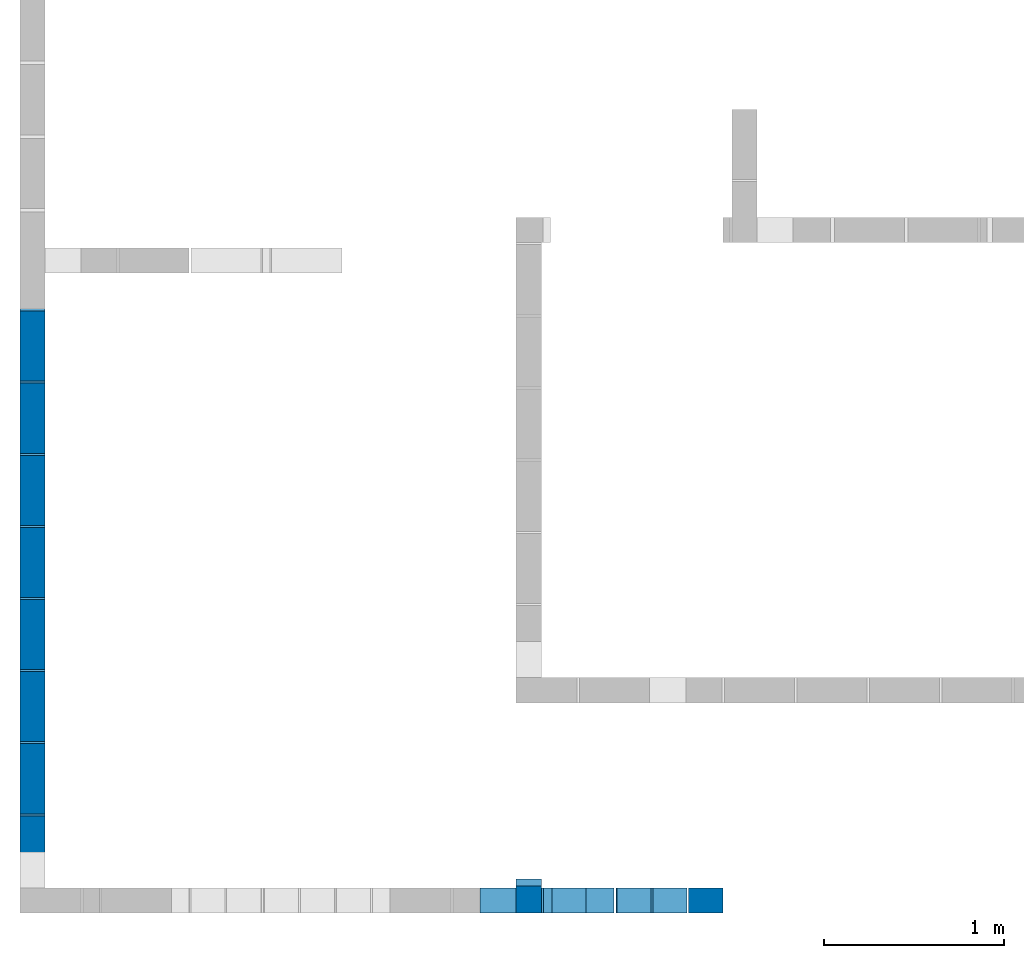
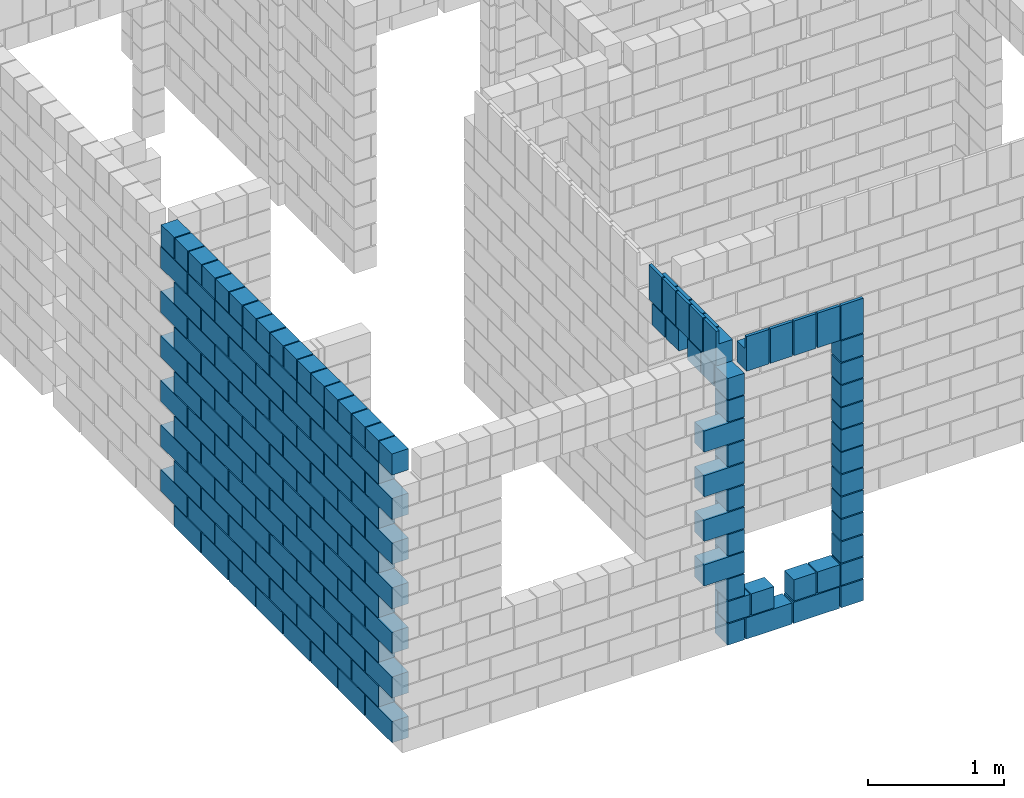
# One storey, part 2 of 12: 5 walls.
"""IFC4 building model written with IfcOpenShell, lengths in centimetres."""

import ifcopenshell
import ifcopenshell.guid

model = None  # the IFC model being written
_history = None  # IfcOwnerHistory: only IFC2X3 demands one
_inside = {}  # id of a spatial element -> (the spatial element, [elements in it])
_under = {}  # id of a project, library or spatial element -> (it, [spatial elements below it])
_declared = {}  # id of a project -> (the project, [libraries it declares])
_typed = {}  # id of a type object -> (the type object, [elements of that type])
_made_of = {}  # id of a material, layer set ... -> (it, [elements and type objects made of it])


def new_model(schema):
    """Start an empty IFC model of exactly this schema.

    Asked for "IFC4X3", IfcOpenShell would pick the latest addendum, in which some entities
    have other attributes; the version numbers below select the first issue.
    IFC2X3 requires an IfcOwnerHistory on every rooted entity: one is made here for all.
    """
    global model, _history
    if schema == "IFC4X3":
        model = ifcopenshell.file(schema_version=(4, 3, 0, 0))
    else:
        model = ifcopenshell.file(schema=schema)
    _inside.clear()
    _under.clear()
    _declared.clear()
    _typed.clear()
    _made_of.clear()
    _history = None
    if model.schema == "IFC2X3":
        org = make("IfcOrganization", Name="unknown")
        user = make(
            "IfcPersonAndOrganization",
            ThePerson=make("IfcPerson", FamilyName="unknown"),
            TheOrganization=org,
        )
        app = make(
            "IfcApplication",
            ApplicationDeveloper=org,
            Version="unknown",
            ApplicationFullName="unknown",
            ApplicationIdentifier="unknown",
        )
        _history = make(
            "IfcOwnerHistory",
            OwningUser=user,
            OwningApplication=app,
            ChangeAction="ADDED",
            CreationDate=0,
        )
    return model


def make(cls, **values):
    """One entity of the class cls with the attributes given. An attribute that is None is left unset."""
    return model.create_entity(
        cls, **{name: value for name, value in values.items() if value is not None}
    )


def rooted(cls, **values):
    """An entity with a GlobalId (a new one), such as an element, a storey or a relation."""
    return make(cls, GlobalId=ifcopenshell.guid.new(), OwnerHistory=_history, **values)


def si_unit(unit_type, name, prefix=None):
    """IfcSIUnit, for example si_unit("LENGTHUNIT", "METRE", prefix="MILLI")."""
    return make("IfcSIUnit", UnitType=unit_type, Prefix=prefix, Name=name)


def derived_unit(unit_type, elements):
    """IfcDerivedUnit: a product of units, each with its exponent."""
    return make(
        "IfcDerivedUnit",
        Elements=[
            make("IfcDerivedUnitElement", Unit=unit, Exponent=power)
            for unit, power in elements
        ],
        UnitType=unit_type,
    )


def assignment(units):
    """IfcUnitAssignment: the units of a project."""
    return None if units is None else make("IfcUnitAssignment", Units=units)


def point(xyz):
    """IfcCartesianPoint."""
    return None if xyz is None else make("IfcCartesianPoint", Coordinates=xyz)


def direction(xyz):
    """IfcDirection."""
    return None if xyz is None else make("IfcDirection", DirectionRatios=xyz)


def frame(location, z_axis=None, x_axis=None):
    """IfcAxis2Placement3D, a coordinate frame: its origin and axes. An axis left out is left unset."""
    return make(
        "IfcAxis2Placement3D",
        Location=point(location),
        Axis=direction(z_axis),
        RefDirection=direction(x_axis),
    )


def frame_2d(location, x_axis=None):
    """IfcAxis2Placement2D, a coordinate frame in the plane: its origin and x axis."""
    return make(
        "IfcAxis2Placement2D", Location=point(location), RefDirection=direction(x_axis)
    )


def origin():
    """The frame at (0, 0, 0) with its axes left unset."""
    return frame((0.0, 0.0, 0.0))


def origin_with_axes():
    """The frame at (0, 0, 0) with the z axis (0, 0, 1) and the x axis (1, 0, 0) written out."""
    return frame((0.0, 0.0, 0.0), z_axis=(0.0, 0.0, 1.0), x_axis=(1.0, 0.0, 0.0))


def origin_2d_with_axis():
    """The frame at (0, 0) in the plane with the x axis (1, 0) written out."""
    return frame_2d((0.0, 0.0), x_axis=(1.0, 0.0))


def place(relative_to, where):
    """IfcLocalPlacement: puts the frame where relative to a parent placement (None: the world)."""
    return make(
        "IfcLocalPlacement", PlacementRelTo=relative_to, RelativePlacement=where
    )


def context(
    kind, dimensions, precision=None, world=None, true_north=None, identifier=None
):
    """IfcGeometricRepresentationContext, for example the 3D "Model" context."""
    return make(
        "IfcGeometricRepresentationContext",
        ContextIdentifier=identifier,
        ContextType=kind,
        CoordinateSpaceDimension=dimensions,
        Precision=precision,
        WorldCoordinateSystem=world,
        TrueNorth=true_north,
    )


def project(units=None, contexts=None):
    """IfcProject with its units and contexts."""
    return rooted(
        "IfcProject",
        Name="project",
        RepresentationContexts=contexts,
        UnitsInContext=assignment(units),
    )


def spatial(cls, under=None, at=None, **own):
    """A site, building, storey or space (cls), placed at a placement, below another one or the project."""
    s = rooted(cls, ObjectPlacement=at, **own)
    if under is not None:
        _under.setdefault(under.id(), (under, []))[1].append(s)
    return s


def profile(cls, at=None, kind="AREA", **sizes):
    """A parametric profile (cls). Its sizes go by their IFC names, for example OverallWidth=200.0."""
    return make(cls, ProfileType=kind, Position=at, **sizes)


def rectangle(**sizes):
    """IfcRectangleProfileDef."""
    return profile("IfcRectangleProfileDef", **sizes)


def extrude(swept, where, along, depth):
    """IfcExtrudedAreaSolid: the profile swept, set in the frame where, extruded along a direction by depth."""
    return make(
        "IfcExtrudedAreaSolid",
        SweptArea=swept,
        Position=where,
        ExtrudedDirection=direction(along),
        Depth=depth,
    )


def shape(context_of_items, identifier, shape_type, items):
    """IfcShapeRepresentation: the items that make up one representation, for example the "Body"."""
    return make(
        "IfcShapeRepresentation",
        ContextOfItems=context_of_items,
        RepresentationIdentifier=identifier,
        RepresentationType=shape_type,
        Items=items,
    )


def made_of(thing, what):
    """Note that an element or type object is made of a material, layer set ...; save() writes the relation."""
    if what is not None:
        _made_of.setdefault(what.id(), (what, []))[1].append(thing)
    return thing


def element(
    cls,
    number,
    at=None,
    inside=None,
    cuts=None,
    type_object=None,
    material=None,
    context=None,
    identifier="Body",
    shape_type=None,
    held_by="IfcProductDefinitionShape",
    body=None,
    shapes=None,
    **own,
):
    """One element of the class cls, such as IfcWall. Its Tag is "e" and its number.

    at: its placement. inside: the storey or other place that contains it. cuts: it is an
    opening in that element (IfcRelVoidsElement). A single representation is given by context,
    identifier, shape_type and body (its items); several are given by shapes. held_by: the class
    of the entity that holds the representations. save() writes the other relations.
    """
    e = rooted(cls, Tag="e%d" % number, ObjectPlacement=at, **own)
    if body is not None:
        shapes = [shape(context, identifier, shape_type, body)]
    if shapes is not None:
        e.Representation = make(held_by, Representations=shapes)
    if inside is not None:
        _inside.setdefault(inside.id(), (inside, []))[1].append(e)
    if cuts is not None:
        rooted(
            "IfcRelVoidsElement", RelatingBuildingElement=cuts, RelatedOpeningElement=e
        )
    if type_object is not None:
        _typed.setdefault(type_object.id(), (type_object, []))[1].append(e)
    return made_of(e, material)


def aggregate(whole, parts):
    """IfcRelAggregates: a whole, such as a stair, and the parts it consists of."""
    return rooted("IfcRelAggregates", RelatingObject=whole, RelatedObjects=parts)


def save(model, path):
    """Write the relations noted so far, then the file.

    IfcRelAggregates (storeys below a building ...), IfcRelContainedInSpatialStructure (elements
    in a storey), IfcRelDefinesByType, IfcRelAssociatesMaterial and IfcRelDeclares: one each for
    every whole, place, type object, material and project.
    """
    for whole, parts in _under.values():
        aggregate(whole, parts)
    for where, things in _inside.values():
        rooted(
            "IfcRelContainedInSpatialStructure",
            RelatedElements=things,
            RelatingStructure=where,
        )
    for kind, things in _typed.values():
        rooted("IfcRelDefinesByType", RelatedObjects=things, RelatingType=kind)
    for what, things in _made_of.values():
        rooted("IfcRelAssociatesMaterial", RelatedObjects=things, RelatingMaterial=what)
    for by, libraries in _declared.values():
        rooted("IfcRelDeclares", RelatingContext=by, RelatedDefinitions=libraries)
    model.write(path)


model = new_model("IFC4")

# Units and contexts
model_context = context("Model", 3, precision=1e-05, world=origin_with_axes(), identifier="Body")
ifc_project = project(units=[si_unit("LENGTHUNIT", "METRE", prefix="CENTI"), si_unit("VOLUMEUNIT", "CUBIC_METRE"), si_unit("AREAUNIT", "SQUARE_METRE"), si_unit("POWERUNIT", "WATT"), si_unit("LUMINOUSFLUXUNIT", "LUMEN"), si_unit("ELECTRICCURRENTUNIT", "AMPERE"), si_unit("PRESSUREUNIT", "PASCAL", prefix="KILO"), si_unit("MASSUNIT", "GRAM", prefix="KILO"), si_unit("PLANEANGLEUNIT", "RADIAN"), derived_unit("VOLUMETRICFLOWRATEUNIT", [(si_unit("LENGTHUNIT", "METRE"), 3), (si_unit("TIMEUNIT", "SECOND"), -1)])], contexts=[model_context])

# Site, building, storey
site_placement = place(None, origin_with_axes())
site = spatial("IfcSite", under=ifc_project, at=site_placement)
building_placement = place(site_placement, origin())
building = spatial("IfcBuilding", under=site, at=building_placement)
storey_placement = place(building_placement, origin_with_axes())
storey = spatial("IfcBuildingStorey", under=building, at=storey_placement, Name="PISO", CompositionType="ELEMENT", Elevation=0.0)

# Walls
wall_1_placement = place(storey_placement, frame((276.5, 10.5, 239.0), z_axis=(0.0, 0.0, 1.0), x_axis=(1.0, 0.0, 0.0)))
element("IfcWall", 1, at=wall_1_placement, inside=storey, context=model_context, shape_type="SolidModel", body=[
    extrude(rectangle(XDim=19.0, YDim=14.0, at=origin_2d_with_axis()), frame((7.5, 0.0, -239.0), z_axis=(0.0, 0.0, 1.0), x_axis=(0.0, 1.0, 0.0)), (0.0, 0.0, 1.0), 19.0),
    extrude(rectangle(XDim=19.0, YDim=14.0, at=origin_2d_with_axis()), frame((10.0, -2.5, -219.0), z_axis=(0.0, 0.0, 1.0), x_axis=(1.0, 0.0, 0.0)), (0.0, 0.0, 1.0), 19.0),
    extrude(rectangle(XDim=19.0, YDim=14.0, at=origin_2d_with_axis()), frame((7.5, 0.0, -199.0), z_axis=(0.0, 0.0, 1.0), x_axis=(0.0, 1.0, 0.0)), (0.0, 0.0, 1.0), 19.0),
    extrude(rectangle(XDim=34.0, YDim=14.0, at=origin_2d_with_axis()), frame((-2.5, -2.5, -179.0), z_axis=(0.0, 0.0, 1.0), x_axis=(-1.0, 0.0, 0.0)), (0.0, 0.0, 1.0), 19.0),
    extrude(rectangle(XDim=19.0, YDim=14.0, at=origin_2d_with_axis()), frame((7.5, 0.0, -159.0), z_axis=(0.0, 0.0, 1.0), x_axis=(0.0, 1.0, 0.0)), (0.0, 0.0, 1.0), 19.0),
    extrude(rectangle(XDim=34.0, YDim=14.0, at=origin_2d_with_axis()), frame((-2.5, -2.5, -139.0), z_axis=(0.0, 0.0, 1.0), x_axis=(-1.0, 0.0, 0.0)), (0.0, 0.0, 1.0), 19.0),
    extrude(rectangle(XDim=19.0, YDim=14.0, at=origin_2d_with_axis()), frame((7.5, 0.0, -119.0), z_axis=(0.0, 0.0, 1.0), x_axis=(0.0, 1.0, 0.0)), (0.0, 0.0, 1.0), 19.0),
    extrude(rectangle(XDim=34.0, YDim=14.0, at=origin_2d_with_axis()), frame((-2.5, -2.5, -99.0), z_axis=(0.0, 0.0, 1.0), x_axis=(-1.0, 0.0, 0.0)), (0.0, 0.0, 1.0), 19.0),
    extrude(rectangle(XDim=19.0, YDim=14.0, at=origin_2d_with_axis()), frame((7.5, 0.0, -79.0), z_axis=(0.0, 0.0, 1.0), x_axis=(0.0, 1.0, 0.0)), (0.0, 0.0, 1.0), 19.0),
    extrude(rectangle(XDim=34.0, YDim=14.0, at=origin_2d_with_axis()), frame((-2.5, -2.5, -59.0), z_axis=(0.0, 0.0, 1.0), x_axis=(-1.0, 0.0, 0.0)), (0.0, 0.0, 1.0), 19.0),
    extrude(rectangle(XDim=19.0, YDim=14.0, at=origin_2d_with_axis()), frame((7.5, 0.0, -39.0), z_axis=(0.0, 0.0, 1.0), x_axis=(0.0, 1.0, 0.0)), (0.0, 0.0, 1.0), 19.0),
    extrude(rectangle(XDim=19.0, YDim=14.0, at=origin_2d_with_axis()), frame((7.5, 0.0, -19.0), z_axis=(0.0, 0.0, 1.0), x_axis=(0.0, 1.0, 0.0)), (0.0, 0.0, 1.0), 19.0),
])
wall_2_placement = place(storey_placement, frame((382.51, 8.0, 239.0), z_axis=(0.0, 0.0, 1.0), x_axis=(1.0, 0.0, 0.0)))
element("IfcWall", 2, at=wall_2_placement, inside=storey, context=model_context, shape_type="SolidModel", body=[
    extrude(rectangle(XDim=19.0, YDim=14.0, at=origin_2d_with_axis()), frame((0.0, 0.0, -239.0), z_axis=(0.0, 0.0, 1.0), x_axis=(-1.0, 0.0, 0.0)), (0.0, 0.0, 1.0), 19.0),
    extrude(rectangle(XDim=19.0, YDim=14.0, at=origin_2d_with_axis()), frame((0.0, 0.0, -219.0), z_axis=(0.0, 0.0, 1.0), x_axis=(-1.0, 0.0, 0.0)), (0.0, 0.0, 1.0), 19.0),
    extrude(rectangle(XDim=19.0, YDim=14.0, at=origin_2d_with_axis()), frame((0.0, 0.0, -199.0), z_axis=(0.0, 0.0, 1.0), x_axis=(-1.0, 0.0, 0.0)), (0.0, 0.0, 1.0), 19.0),
    extrude(rectangle(XDim=19.0, YDim=14.0, at=origin_2d_with_axis()), frame((0.0, 0.0, -179.0), z_axis=(0.0, 0.0, 1.0), x_axis=(-1.0, 0.0, 0.0)), (0.0, 0.0, 1.0), 19.0),
    extrude(rectangle(XDim=19.0, YDim=14.0, at=origin_2d_with_axis()), frame((0.0, 0.0, -159.0), z_axis=(0.0, 0.0, 1.0), x_axis=(-1.0, 0.0, 0.0)), (0.0, 0.0, 1.0), 19.0),
    extrude(rectangle(XDim=19.0, YDim=14.0, at=origin_2d_with_axis()), frame((0.0, 0.0, -139.0), z_axis=(0.0, 0.0, 1.0), x_axis=(-1.0, 0.0, 0.0)), (0.0, 0.0, 1.0), 19.0),
    extrude(rectangle(XDim=19.0, YDim=14.0, at=origin_2d_with_axis()), frame((0.0, 0.0, -119.0), z_axis=(0.0, 0.0, 1.0), x_axis=(-1.0, 0.0, 0.0)), (0.0, 0.0, 1.0), 19.0),
    extrude(rectangle(XDim=19.0, YDim=14.0, at=origin_2d_with_axis()), frame((0.0, 0.0, -99.0), z_axis=(0.0, 0.0, 1.0), x_axis=(-1.0, 0.0, 0.0)), (0.0, 0.0, 1.0), 19.0),
    extrude(rectangle(XDim=19.0, YDim=14.0, at=origin_2d_with_axis()), frame((0.0, 0.0, -79.0), z_axis=(0.0, 0.0, 1.0), x_axis=(-1.0, 0.0, 0.0)), (0.0, 0.0, 1.0), 19.0),
    extrude(rectangle(XDim=19.0, YDim=14.0, at=origin_2d_with_axis()), frame((0.0, 0.0, -59.0), z_axis=(0.0, 0.0, 1.0), x_axis=(-1.0, 0.0, 0.0)), (0.0, 0.0, 1.0), 19.0),
    extrude(rectangle(XDim=19.0, YDim=14.0, at=origin_2d_with_axis()), frame((0.0, 0.0, -39.0), z_axis=(0.0, 0.0, 1.0), x_axis=(-1.0, 0.0, 0.0)), (0.0, 0.0, 1.0), 19.0),
    extrude(rectangle(XDim=19.0, YDim=14.0, at=origin_2d_with_axis()), frame((0.0, 0.0, -19.0), z_axis=(0.0, 0.0, 1.0), x_axis=(-1.0, 0.0, 0.0)), (0.0, 0.0, 1.0), 19.0),
])
wall_3_placement = place(storey_placement, frame((342.1733333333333, 8.0, 271.0), z_axis=(0.0, 0.0, 1.0), x_axis=(1.0, 0.0, 0.0)))
element("IfcWall", 3, at=wall_3_placement, inside=storey, Name="PAR-PISO-10", context=model_context, shape_type="SolidModel", body=[
    extrude(rectangle(XDim=39.0, YDim=14.0, at=origin_2d_with_axis()), frame((10.0, 0.0, -271.0), z_axis=(0.0, 0.0, 1.0), x_axis=(-1.0, 0.0, 0.0)), (0.0, 0.0, 1.0), 19.0),
    extrude(rectangle(XDim=39.0, YDim=14.0, at=origin_2d_with_axis()), frame((-30.336666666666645, 0.0, -271.0), z_axis=(0.0, 0.0, 1.0), x_axis=(-1.0, 0.0, 0.0)), (0.0, 0.0, 1.0), 19.0),
    extrude(rectangle(XDim=19.0, YDim=14.0, at=origin_2d_with_axis()), frame((20.3366666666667, 0.0, -251.0), z_axis=(0.0, 0.0, 1.0), x_axis=(-1.0, 0.0, 0.0)), (0.0, 0.0, 1.0), 19.0),
    extrude(rectangle(XDim=19.0, YDim=14.0, at=origin_2d_with_axis()), frame((0.336666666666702, 0.0, -251.0), z_axis=(0.0, 0.0, 1.0), x_axis=(-1.0, 0.0, 0.0)), (0.0, 0.0, 1.0), 19.0),
    extrude(rectangle(XDim=19.0, YDim=14.0, at=origin_2d_with_axis()), frame((-35.67333333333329, 0.0, -251.0), z_axis=(0.0, 0.0, 1.0), x_axis=(-1.0, 0.0, 0.0)), (0.0, 0.0, 1.0), 19.0),
    extrude(rectangle(XDim=19.0, YDim=2.5, at=origin_2d_with_axis()), frame((40.3366666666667, -5.75, -12.0), z_axis=(0.0, 0.0, 1.0), x_axis=(-1.0, 0.0, 0.0)), (0.0, 0.0, 1.0), 12.0),
    extrude(rectangle(XDim=19.0, YDim=14.0, at=origin_2d_with_axis()), frame((40.3366666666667, 0.0, -31.0), z_axis=(0.0, 0.0, 1.0), x_axis=(-1.0, 0.0, 0.0)), (0.0, 0.0, 1.0), 19.0),
    extrude(rectangle(XDim=19.0, YDim=2.5, at=origin_2d_with_axis()), frame((20.3366666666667, -5.75, -12.0), z_axis=(0.0, 0.0, 1.0), x_axis=(-1.0, 0.0, 0.0)), (0.0, 0.0, 1.0), 12.0),
    extrude(rectangle(XDim=19.0, YDim=14.0, at=origin_2d_with_axis()), frame((20.3366666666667, 0.0, -31.0), z_axis=(0.0, 0.0, 1.0), x_axis=(-1.0, 0.0, 0.0)), (0.0, 0.0, 1.0), 19.0),
    extrude(rectangle(XDim=19.0, YDim=2.5, at=origin_2d_with_axis()), frame((0.336666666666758, -5.75, -12.0), z_axis=(0.0, 0.0, 1.0), x_axis=(-1.0, 0.0, 0.0)), (0.0, 0.0, 1.0), 12.0),
    extrude(rectangle(XDim=19.0, YDim=14.0, at=origin_2d_with_axis()), frame((0.336666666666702, 0.0, -31.0), z_axis=(0.0, 0.0, 1.0), x_axis=(-1.0, 0.0, 0.0)), (0.0, 0.0, 1.0), 19.0),
    extrude(rectangle(XDim=19.0, YDim=2.5, at=origin_2d_with_axis()), frame((-19.66333333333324, -5.75, -12.0), z_axis=(0.0, 0.0, 1.0), x_axis=(-1.0, 0.0, 0.0)), (0.0, 0.0, 1.0), 12.0),
    extrude(rectangle(XDim=19.0, YDim=14.0, at=origin_2d_with_axis()), frame((-19.6633333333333, 0.0, -31.0), z_axis=(0.0, 0.0, 1.0), x_axis=(-1.0, 0.0, 0.0)), (0.0, 0.0, 1.0), 19.0),
    extrude(rectangle(XDim=19.0, YDim=2.5, at=origin_2d_with_axis()), frame((-39.66333333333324, -5.75, -12.0), z_axis=(0.0, 0.0, 1.0), x_axis=(-1.0, 0.0, 0.0)), (0.0, 0.0, 1.0), 12.0),
    extrude(rectangle(XDim=19.0, YDim=14.0, at=origin_2d_with_axis()), frame((-39.6633333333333, 0.0, -31.0), z_axis=(0.0, 0.0, 1.0), x_axis=(-1.0, 0.0, 0.0)), (0.0, 0.0, 1.0), 19.0),
])
wall_4_placement = place(storey_placement, frame((8.0, 185.9488888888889, 259.0), z_axis=(0.0, 0.0, 1.0), x_axis=(1.0, 0.0, 0.0)))
element("IfcWall", 4, at=wall_4_placement, inside=storey, Name="PAR-PISO-11", context=model_context, shape_type="SolidModel", body=[
    extrude(rectangle(XDim=39.0, YDim=14.0, at=origin_2d_with_axis()), frame((0.0, -150.33666666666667, -259.0), z_axis=(0.0, 0.0, 1.0), x_axis=(0.0, 1.0, 0.0)), (0.0, 0.0, 1.0), 19.0),
    extrude(rectangle(XDim=39.0, YDim=14.0, at=origin_2d_with_axis()), frame((0.0, -110.22444444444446, -259.0), z_axis=(0.0, 0.0, 1.0), x_axis=(0.0, 1.0, 0.0)), (0.0, 0.0, 1.0), 19.0),
    extrude(rectangle(XDim=39.0, YDim=14.0, at=origin_2d_with_axis()), frame((0.0, -70.11222222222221, -259.0), z_axis=(0.0, 0.0, 1.0), x_axis=(0.0, 1.0, 0.0)), (0.0, 0.0, 1.0), 19.0),
    extrude(rectangle(XDim=39.0, YDim=14.0, at=origin_2d_with_axis()), frame((0.0, -30.0, -259.0), z_axis=(0.0, 0.0, 1.0), x_axis=(0.0, 1.0, 0.0)), (0.0, 0.0, 1.0), 19.0),
    extrude(rectangle(XDim=39.0, YDim=14.0, at=origin_2d_with_axis()), frame((0.0, 10.112222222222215, -259.0), z_axis=(0.0, 0.0, 1.0), x_axis=(0.0, 1.0, 0.0)), (0.0, 0.0, 1.0), 19.0),
    extrude(rectangle(XDim=39.0, YDim=14.0, at=origin_2d_with_axis()), frame((0.0, 50.22444444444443, -259.0), z_axis=(0.0, 0.0, 1.0), x_axis=(0.0, 1.0, 0.0)), (0.0, 0.0, 1.0), 19.0),
    extrude(rectangle(XDim=39.0, YDim=14.0, at=origin_2d_with_axis()), frame((0.0, 90.33666666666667, -259.0), z_axis=(0.0, 0.0, 1.0), x_axis=(0.0, 1.0, 0.0)), (0.0, 0.0, 1.0), 19.0),
    extrude(rectangle(XDim=39.0, YDim=14.0, at=origin_2d_with_axis()), frame((0.0, 130.4488888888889, -259.0), z_axis=(0.0, 0.0, 1.0), x_axis=(0.0, 1.0, 0.0)), (0.0, 0.0, 1.0), 19.0),
    extrude(rectangle(XDim=39.0, YDim=14.0, at=origin_2d_with_axis()), frame((0.0, -130.33666666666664, -239.0), z_axis=(0.0, 0.0, 1.0), x_axis=(0.0, 1.0, 0.0)), (0.0, 0.0, 1.0), 19.0),
    extrude(rectangle(XDim=39.0, YDim=14.0, at=origin_2d_with_axis()), frame((0.0, -90.22444444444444, -239.0), z_axis=(0.0, 0.0, 1.0), x_axis=(0.0, 1.0, 0.0)), (0.0, 0.0, 1.0), 19.0),
    extrude(rectangle(XDim=39.0, YDim=14.0, at=origin_2d_with_axis()), frame((0.0, -50.11222222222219, -239.0), z_axis=(0.0, 0.0, 1.0), x_axis=(0.0, 1.0, 0.0)), (0.0, 0.0, 1.0), 19.0),
    extrude(rectangle(XDim=39.0, YDim=14.0, at=origin_2d_with_axis()), frame((0.0, -10.0, -239.0), z_axis=(0.0, 0.0, 1.0), x_axis=(0.0, 1.0, 0.0)), (0.0, 0.0, 1.0), 19.0),
    extrude(rectangle(XDim=39.0, YDim=14.0, at=origin_2d_with_axis()), frame((0.0, 30.112222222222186, -239.0), z_axis=(0.0, 0.0, 1.0), x_axis=(0.0, 1.0, 0.0)), (0.0, 0.0, 1.0), 19.0),
    extrude(rectangle(XDim=39.0, YDim=14.0, at=origin_2d_with_axis()), frame((0.0, 70.2244444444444, -239.0), z_axis=(0.0, 0.0, 1.0), x_axis=(0.0, 1.0, 0.0)), (0.0, 0.0, 1.0), 19.0),
    extrude(rectangle(XDim=39.0, YDim=14.0, at=origin_2d_with_axis()), frame((0.0, 110.33666666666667, -239.0), z_axis=(0.0, 0.0, 1.0), x_axis=(0.0, 1.0, 0.0)), (0.0, 0.0, 1.0), 19.0),
    extrude(rectangle(XDim=39.0, YDim=14.0, at=origin_2d_with_axis()), frame((0.0, 150.4488888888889, -239.0), z_axis=(0.0, 0.0, 1.0), x_axis=(0.0, 1.0, 0.0)), (0.0, 0.0, 1.0), 19.0),
    extrude(rectangle(XDim=39.0, YDim=14.0, at=origin_2d_with_axis()), frame((0.0, -150.33666666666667, -219.0), z_axis=(0.0, 0.0, 1.0), x_axis=(0.0, 1.0, 0.0)), (0.0, 0.0, 1.0), 19.0),
    extrude(rectangle(XDim=39.0, YDim=14.0, at=origin_2d_with_axis()), frame((0.0, -110.22444444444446, -219.0), z_axis=(0.0, 0.0, 1.0), x_axis=(0.0, 1.0, 0.0)), (0.0, 0.0, 1.0), 19.0),
    extrude(rectangle(XDim=39.0, YDim=14.0, at=origin_2d_with_axis()), frame((0.0, -70.11222222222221, -219.0), z_axis=(0.0, 0.0, 1.0), x_axis=(0.0, 1.0, 0.0)), (0.0, 0.0, 1.0), 19.0),
    extrude(rectangle(XDim=39.0, YDim=14.0, at=origin_2d_with_axis()), frame((0.0, -30.0, -219.0), z_axis=(0.0, 0.0, 1.0), x_axis=(0.0, 1.0, 0.0)), (0.0, 0.0, 1.0), 19.0),
    extrude(rectangle(XDim=39.0, YDim=14.0, at=origin_2d_with_axis()), frame((0.0, 10.112222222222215, -219.0), z_axis=(0.0, 0.0, 1.0), x_axis=(0.0, 1.0, 0.0)), (0.0, 0.0, 1.0), 19.0),
    extrude(rectangle(XDim=39.0, YDim=14.0, at=origin_2d_with_axis()), frame((0.0, 50.22444444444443, -219.0), z_axis=(0.0, 0.0, 1.0), x_axis=(0.0, 1.0, 0.0)), (0.0, 0.0, 1.0), 19.0),
    extrude(rectangle(XDim=39.0, YDim=14.0, at=origin_2d_with_axis()), frame((0.0, 90.33666666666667, -219.0), z_axis=(0.0, 0.0, 1.0), x_axis=(0.0, 1.0, 0.0)), (0.0, 0.0, 1.0), 19.0),
    extrude(rectangle(XDim=39.0, YDim=14.0, at=origin_2d_with_axis()), frame((0.0, 130.4488888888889, -219.0), z_axis=(0.0, 0.0, 1.0), x_axis=(0.0, 1.0, 0.0)), (0.0, 0.0, 1.0), 19.0),
    extrude(rectangle(XDim=39.0, YDim=14.0, at=origin_2d_with_axis()), frame((0.0, -130.33666666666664, -199.0), z_axis=(0.0, 0.0, 1.0), x_axis=(0.0, 1.0, 0.0)), (0.0, 0.0, 1.0), 19.0),
    extrude(rectangle(XDim=39.0, YDim=14.0, at=origin_2d_with_axis()), frame((0.0, -90.22444444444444, -199.0), z_axis=(0.0, 0.0, 1.0), x_axis=(0.0, 1.0, 0.0)), (0.0, 0.0, 1.0), 19.0),
    extrude(rectangle(XDim=39.0, YDim=14.0, at=origin_2d_with_axis()), frame((0.0, -50.11222222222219, -199.0), z_axis=(0.0, 0.0, 1.0), x_axis=(0.0, 1.0, 0.0)), (0.0, 0.0, 1.0), 19.0),
    extrude(rectangle(XDim=39.0, YDim=14.0, at=origin_2d_with_axis()), frame((0.0, -10.0, -199.0), z_axis=(0.0, 0.0, 1.0), x_axis=(0.0, 1.0, 0.0)), (0.0, 0.0, 1.0), 19.0),
    extrude(rectangle(XDim=39.0, YDim=14.0, at=origin_2d_with_axis()), frame((0.0, 30.112222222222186, -199.0), z_axis=(0.0, 0.0, 1.0), x_axis=(0.0, 1.0, 0.0)), (0.0, 0.0, 1.0), 19.0),
    extrude(rectangle(XDim=39.0, YDim=14.0, at=origin_2d_with_axis()), frame((0.0, 70.2244444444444, -199.0), z_axis=(0.0, 0.0, 1.0), x_axis=(0.0, 1.0, 0.0)), (0.0, 0.0, 1.0), 19.0),
    extrude(rectangle(XDim=39.0, YDim=14.0, at=origin_2d_with_axis()), frame((0.0, 110.33666666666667, -199.0), z_axis=(0.0, 0.0, 1.0), x_axis=(0.0, 1.0, 0.0)), (0.0, 0.0, 1.0), 19.0),
    extrude(rectangle(XDim=39.0, YDim=14.0, at=origin_2d_with_axis()), frame((0.0, 150.4488888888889, -199.0), z_axis=(0.0, 0.0, 1.0), x_axis=(0.0, 1.0, 0.0)), (0.0, 0.0, 1.0), 19.0),
    extrude(rectangle(XDim=39.0, YDim=14.0, at=origin_2d_with_axis()), frame((0.0, -150.33666666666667, -179.0), z_axis=(0.0, 0.0, 1.0), x_axis=(0.0, 1.0, 0.0)), (0.0, 0.0, 1.0), 19.0),
    extrude(rectangle(XDim=39.0, YDim=14.0, at=origin_2d_with_axis()), frame((0.0, -110.22444444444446, -179.0), z_axis=(0.0, 0.0, 1.0), x_axis=(0.0, 1.0, 0.0)), (0.0, 0.0, 1.0), 19.0),
    extrude(rectangle(XDim=39.0, YDim=14.0, at=origin_2d_with_axis()), frame((0.0, -70.11222222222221, -179.0), z_axis=(0.0, 0.0, 1.0), x_axis=(0.0, 1.0, 0.0)), (0.0, 0.0, 1.0), 19.0),
    extrude(rectangle(XDim=39.0, YDim=14.0, at=origin_2d_with_axis()), frame((0.0, -30.0, -179.0), z_axis=(0.0, 0.0, 1.0), x_axis=(0.0, 1.0, 0.0)), (0.0, 0.0, 1.0), 19.0),
    extrude(rectangle(XDim=39.0, YDim=14.0, at=origin_2d_with_axis()), frame((0.0, 10.112222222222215, -179.0), z_axis=(0.0, 0.0, 1.0), x_axis=(0.0, 1.0, 0.0)), (0.0, 0.0, 1.0), 19.0),
    extrude(rectangle(XDim=39.0, YDim=14.0, at=origin_2d_with_axis()), frame((0.0, 50.22444444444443, -179.0), z_axis=(0.0, 0.0, 1.0), x_axis=(0.0, 1.0, 0.0)), (0.0, 0.0, 1.0), 19.0),
    extrude(rectangle(XDim=39.0, YDim=14.0, at=origin_2d_with_axis()), frame((0.0, 90.33666666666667, -179.0), z_axis=(0.0, 0.0, 1.0), x_axis=(0.0, 1.0, 0.0)), (0.0, 0.0, 1.0), 19.0),
    extrude(rectangle(XDim=39.0, YDim=14.0, at=origin_2d_with_axis()), frame((0.0, 130.4488888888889, -179.0), z_axis=(0.0, 0.0, 1.0), x_axis=(0.0, 1.0, 0.0)), (0.0, 0.0, 1.0), 19.0),
    extrude(rectangle(XDim=39.0, YDim=14.0, at=origin_2d_with_axis()), frame((0.0, -130.33666666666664, -159.0), z_axis=(0.0, 0.0, 1.0), x_axis=(0.0, 1.0, 0.0)), (0.0, 0.0, 1.0), 19.0),
    extrude(rectangle(XDim=39.0, YDim=14.0, at=origin_2d_with_axis()), frame((0.0, -90.22444444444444, -159.0), z_axis=(0.0, 0.0, 1.0), x_axis=(0.0, 1.0, 0.0)), (0.0, 0.0, 1.0), 19.0),
    extrude(rectangle(XDim=39.0, YDim=14.0, at=origin_2d_with_axis()), frame((0.0, -50.11222222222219, -159.0), z_axis=(0.0, 0.0, 1.0), x_axis=(0.0, 1.0, 0.0)), (0.0, 0.0, 1.0), 19.0),
    extrude(rectangle(XDim=39.0, YDim=14.0, at=origin_2d_with_axis()), frame((0.0, -10.0, -159.0), z_axis=(0.0, 0.0, 1.0), x_axis=(0.0, 1.0, 0.0)), (0.0, 0.0, 1.0), 19.0),
    extrude(rectangle(XDim=39.0, YDim=14.0, at=origin_2d_with_axis()), frame((0.0, 30.112222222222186, -159.0), z_axis=(0.0, 0.0, 1.0), x_axis=(0.0, 1.0, 0.0)), (0.0, 0.0, 1.0), 19.0),
    extrude(rectangle(XDim=39.0, YDim=14.0, at=origin_2d_with_axis()), frame((0.0, 70.2244444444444, -159.0), z_axis=(0.0, 0.0, 1.0), x_axis=(0.0, 1.0, 0.0)), (0.0, 0.0, 1.0), 19.0),
    extrude(rectangle(XDim=39.0, YDim=14.0, at=origin_2d_with_axis()), frame((0.0, 110.33666666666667, -159.0), z_axis=(0.0, 0.0, 1.0), x_axis=(0.0, 1.0, 0.0)), (0.0, 0.0, 1.0), 19.0),
    extrude(rectangle(XDim=39.0, YDim=14.0, at=origin_2d_with_axis()), frame((0.0, 150.4488888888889, -159.0), z_axis=(0.0, 0.0, 1.0), x_axis=(0.0, 1.0, 0.0)), (0.0, 0.0, 1.0), 19.0),
    extrude(rectangle(XDim=39.0, YDim=14.0, at=origin_2d_with_axis()), frame((0.0, -150.33666666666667, -139.0), z_axis=(0.0, 0.0, 1.0), x_axis=(0.0, 1.0, 0.0)), (0.0, 0.0, 1.0), 19.0),
    extrude(rectangle(XDim=39.0, YDim=14.0, at=origin_2d_with_axis()), frame((0.0, -110.22444444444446, -139.0), z_axis=(0.0, 0.0, 1.0), x_axis=(0.0, 1.0, 0.0)), (0.0, 0.0, 1.0), 19.0),
    extrude(rectangle(XDim=39.0, YDim=14.0, at=origin_2d_with_axis()), frame((0.0, -70.11222222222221, -139.0), z_axis=(0.0, 0.0, 1.0), x_axis=(0.0, 1.0, 0.0)), (0.0, 0.0, 1.0), 19.0),
    extrude(rectangle(XDim=39.0, YDim=14.0, at=origin_2d_with_axis()), frame((0.0, -30.0, -139.0), z_axis=(0.0, 0.0, 1.0), x_axis=(0.0, 1.0, 0.0)), (0.0, 0.0, 1.0), 19.0),
    extrude(rectangle(XDim=39.0, YDim=14.0, at=origin_2d_with_axis()), frame((0.0, 10.112222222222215, -139.0), z_axis=(0.0, 0.0, 1.0), x_axis=(0.0, 1.0, 0.0)), (0.0, 0.0, 1.0), 19.0),
    extrude(rectangle(XDim=39.0, YDim=14.0, at=origin_2d_with_axis()), frame((0.0, 50.22444444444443, -139.0), z_axis=(0.0, 0.0, 1.0), x_axis=(0.0, 1.0, 0.0)), (0.0, 0.0, 1.0), 19.0),
    extrude(rectangle(XDim=39.0, YDim=14.0, at=origin_2d_with_axis()), frame((0.0, 90.33666666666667, -139.0), z_axis=(0.0, 0.0, 1.0), x_axis=(0.0, 1.0, 0.0)), (0.0, 0.0, 1.0), 19.0),
    extrude(rectangle(XDim=39.0, YDim=14.0, at=origin_2d_with_axis()), frame((0.0, 130.4488888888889, -139.0), z_axis=(0.0, 0.0, 1.0), x_axis=(0.0, 1.0, 0.0)), (0.0, 0.0, 1.0), 19.0),
    extrude(rectangle(XDim=39.0, YDim=14.0, at=origin_2d_with_axis()), frame((0.0, -130.33666666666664, -119.0), z_axis=(0.0, 0.0, 1.0), x_axis=(0.0, 1.0, 0.0)), (0.0, 0.0, 1.0), 19.0),
    extrude(rectangle(XDim=39.0, YDim=14.0, at=origin_2d_with_axis()), frame((0.0, -90.22444444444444, -119.0), z_axis=(0.0, 0.0, 1.0), x_axis=(0.0, 1.0, 0.0)), (0.0, 0.0, 1.0), 19.0),
    extrude(rectangle(XDim=39.0, YDim=14.0, at=origin_2d_with_axis()), frame((0.0, -50.11222222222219, -119.0), z_axis=(0.0, 0.0, 1.0), x_axis=(0.0, 1.0, 0.0)), (0.0, 0.0, 1.0), 19.0),
    extrude(rectangle(XDim=39.0, YDim=14.0, at=origin_2d_with_axis()), frame((0.0, -10.0, -119.0), z_axis=(0.0, 0.0, 1.0), x_axis=(0.0, 1.0, 0.0)), (0.0, 0.0, 1.0), 19.0),
    extrude(rectangle(XDim=39.0, YDim=14.0, at=origin_2d_with_axis()), frame((0.0, 30.112222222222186, -119.0), z_axis=(0.0, 0.0, 1.0), x_axis=(0.0, 1.0, 0.0)), (0.0, 0.0, 1.0), 19.0),
    extrude(rectangle(XDim=39.0, YDim=14.0, at=origin_2d_with_axis()), frame((0.0, 70.2244444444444, -119.0), z_axis=(0.0, 0.0, 1.0), x_axis=(0.0, 1.0, 0.0)), (0.0, 0.0, 1.0), 19.0),
    extrude(rectangle(XDim=39.0, YDim=14.0, at=origin_2d_with_axis()), frame((0.0, 110.33666666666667, -119.0), z_axis=(0.0, 0.0, 1.0), x_axis=(0.0, 1.0, 0.0)), (0.0, 0.0, 1.0), 19.0),
    extrude(rectangle(XDim=39.0, YDim=14.0, at=origin_2d_with_axis()), frame((0.0, 150.4488888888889, -119.0), z_axis=(0.0, 0.0, 1.0), x_axis=(0.0, 1.0, 0.0)), (0.0, 0.0, 1.0), 19.0),
    extrude(rectangle(XDim=39.0, YDim=14.0, at=origin_2d_with_axis()), frame((0.0, -150.33666666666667, -99.0), z_axis=(0.0, 0.0, 1.0), x_axis=(0.0, 1.0, 0.0)), (0.0, 0.0, 1.0), 19.0),
    extrude(rectangle(XDim=39.0, YDim=14.0, at=origin_2d_with_axis()), frame((0.0, -110.22444444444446, -99.0), z_axis=(0.0, 0.0, 1.0), x_axis=(0.0, 1.0, 0.0)), (0.0, 0.0, 1.0), 19.0),
    extrude(rectangle(XDim=39.0, YDim=14.0, at=origin_2d_with_axis()), frame((0.0, -70.11222222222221, -99.0), z_axis=(0.0, 0.0, 1.0), x_axis=(0.0, 1.0, 0.0)), (0.0, 0.0, 1.0), 19.0),
    extrude(rectangle(XDim=39.0, YDim=14.0, at=origin_2d_with_axis()), frame((0.0, -30.0, -99.0), z_axis=(0.0, 0.0, 1.0), x_axis=(0.0, 1.0, 0.0)), (0.0, 0.0, 1.0), 19.0),
    extrude(rectangle(XDim=39.0, YDim=14.0, at=origin_2d_with_axis()), frame((0.0, 10.112222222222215, -99.0), z_axis=(0.0, 0.0, 1.0), x_axis=(0.0, 1.0, 0.0)), (0.0, 0.0, 1.0), 19.0),
    extrude(rectangle(XDim=39.0, YDim=14.0, at=origin_2d_with_axis()), frame((0.0, 50.22444444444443, -99.0), z_axis=(0.0, 0.0, 1.0), x_axis=(0.0, 1.0, 0.0)), (0.0, 0.0, 1.0), 19.0),
    extrude(rectangle(XDim=39.0, YDim=14.0, at=origin_2d_with_axis()), frame((0.0, 90.33666666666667, -99.0), z_axis=(0.0, 0.0, 1.0), x_axis=(0.0, 1.0, 0.0)), (0.0, 0.0, 1.0), 19.0),
    extrude(rectangle(XDim=39.0, YDim=14.0, at=origin_2d_with_axis()), frame((0.0, 130.4488888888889, -99.0), z_axis=(0.0, 0.0, 1.0), x_axis=(0.0, 1.0, 0.0)), (0.0, 0.0, 1.0), 19.0),
    extrude(rectangle(XDim=39.0, YDim=14.0, at=origin_2d_with_axis()), frame((0.0, -130.33666666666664, -79.0), z_axis=(0.0, 0.0, 1.0), x_axis=(0.0, 1.0, 0.0)), (0.0, 0.0, 1.0), 19.0),
    extrude(rectangle(XDim=39.0, YDim=14.0, at=origin_2d_with_axis()), frame((0.0, -90.22444444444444, -79.0), z_axis=(0.0, 0.0, 1.0), x_axis=(0.0, 1.0, 0.0)), (0.0, 0.0, 1.0), 19.0),
    extrude(rectangle(XDim=39.0, YDim=14.0, at=origin_2d_with_axis()), frame((0.0, -50.11222222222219, -79.0), z_axis=(0.0, 0.0, 1.0), x_axis=(0.0, 1.0, 0.0)), (0.0, 0.0, 1.0), 19.0),
    extrude(rectangle(XDim=39.0, YDim=14.0, at=origin_2d_with_axis()), frame((0.0, -10.0, -79.0), z_axis=(0.0, 0.0, 1.0), x_axis=(0.0, 1.0, 0.0)), (0.0, 0.0, 1.0), 19.0),
    extrude(rectangle(XDim=39.0, YDim=14.0, at=origin_2d_with_axis()), frame((0.0, 30.112222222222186, -79.0), z_axis=(0.0, 0.0, 1.0), x_axis=(0.0, 1.0, 0.0)), (0.0, 0.0, 1.0), 19.0),
    extrude(rectangle(XDim=39.0, YDim=14.0, at=origin_2d_with_axis()), frame((0.0, 70.2244444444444, -79.0), z_axis=(0.0, 0.0, 1.0), x_axis=(0.0, 1.0, 0.0)), (0.0, 0.0, 1.0), 19.0),
    extrude(rectangle(XDim=39.0, YDim=14.0, at=origin_2d_with_axis()), frame((0.0, 110.33666666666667, -79.0), z_axis=(0.0, 0.0, 1.0), x_axis=(0.0, 1.0, 0.0)), (0.0, 0.0, 1.0), 19.0),
    extrude(rectangle(XDim=39.0, YDim=14.0, at=origin_2d_with_axis()), frame((0.0, 150.4488888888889, -79.0), z_axis=(0.0, 0.0, 1.0), x_axis=(0.0, 1.0, 0.0)), (0.0, 0.0, 1.0), 19.0),
    extrude(rectangle(XDim=39.0, YDim=14.0, at=origin_2d_with_axis()), frame((0.0, -150.33666666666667, -59.0), z_axis=(0.0, 0.0, 1.0), x_axis=(0.0, 1.0, 0.0)), (0.0, 0.0, 1.0), 19.0),
    extrude(rectangle(XDim=39.0, YDim=14.0, at=origin_2d_with_axis()), frame((0.0, -110.22444444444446, -59.0), z_axis=(0.0, 0.0, 1.0), x_axis=(0.0, 1.0, 0.0)), (0.0, 0.0, 1.0), 19.0),
    extrude(rectangle(XDim=39.0, YDim=14.0, at=origin_2d_with_axis()), frame((0.0, -70.11222222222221, -59.0), z_axis=(0.0, 0.0, 1.0), x_axis=(0.0, 1.0, 0.0)), (0.0, 0.0, 1.0), 19.0),
    extrude(rectangle(XDim=39.0, YDim=14.0, at=origin_2d_with_axis()), frame((0.0, -30.0, -59.0), z_axis=(0.0, 0.0, 1.0), x_axis=(0.0, 1.0, 0.0)), (0.0, 0.0, 1.0), 19.0),
    extrude(rectangle(XDim=39.0, YDim=14.0, at=origin_2d_with_axis()), frame((0.0, 10.112222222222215, -59.0), z_axis=(0.0, 0.0, 1.0), x_axis=(0.0, 1.0, 0.0)), (0.0, 0.0, 1.0), 19.0),
    extrude(rectangle(XDim=39.0, YDim=14.0, at=origin_2d_with_axis()), frame((0.0, 50.22444444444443, -59.0), z_axis=(0.0, 0.0, 1.0), x_axis=(0.0, 1.0, 0.0)), (0.0, 0.0, 1.0), 19.0),
    extrude(rectangle(XDim=39.0, YDim=14.0, at=origin_2d_with_axis()), frame((0.0, 90.33666666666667, -59.0), z_axis=(0.0, 0.0, 1.0), x_axis=(0.0, 1.0, 0.0)), (0.0, 0.0, 1.0), 19.0),
    extrude(rectangle(XDim=39.0, YDim=14.0, at=origin_2d_with_axis()), frame((0.0, 130.4488888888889, -59.0), z_axis=(0.0, 0.0, 1.0), x_axis=(0.0, 1.0, 0.0)), (0.0, 0.0, 1.0), 19.0),
    extrude(rectangle(XDim=39.0, YDim=14.0, at=origin_2d_with_axis()), frame((0.0, -130.33666666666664, -39.0), z_axis=(0.0, 0.0, 1.0), x_axis=(0.0, 1.0, 0.0)), (0.0, 0.0, 1.0), 19.0),
    extrude(rectangle(XDim=39.0, YDim=14.0, at=origin_2d_with_axis()), frame((0.0, -90.22444444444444, -39.0), z_axis=(0.0, 0.0, 1.0), x_axis=(0.0, 1.0, 0.0)), (0.0, 0.0, 1.0), 19.0),
    extrude(rectangle(XDim=39.0, YDim=14.0, at=origin_2d_with_axis()), frame((0.0, -50.11222222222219, -39.0), z_axis=(0.0, 0.0, 1.0), x_axis=(0.0, 1.0, 0.0)), (0.0, 0.0, 1.0), 19.0),
    extrude(rectangle(XDim=39.0, YDim=14.0, at=origin_2d_with_axis()), frame((0.0, -10.0, -39.0), z_axis=(0.0, 0.0, 1.0), x_axis=(0.0, 1.0, 0.0)), (0.0, 0.0, 1.0), 19.0),
    extrude(rectangle(XDim=39.0, YDim=14.0, at=origin_2d_with_axis()), frame((0.0, 30.112222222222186, -39.0), z_axis=(0.0, 0.0, 1.0), x_axis=(0.0, 1.0, 0.0)), (0.0, 0.0, 1.0), 19.0),
    extrude(rectangle(XDim=39.0, YDim=14.0, at=origin_2d_with_axis()), frame((0.0, 70.2244444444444, -39.0), z_axis=(0.0, 0.0, 1.0), x_axis=(0.0, 1.0, 0.0)), (0.0, 0.0, 1.0), 19.0),
    extrude(rectangle(XDim=39.0, YDim=14.0, at=origin_2d_with_axis()), frame((0.0, 110.33666666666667, -39.0), z_axis=(0.0, 0.0, 1.0), x_axis=(0.0, 1.0, 0.0)), (0.0, 0.0, 1.0), 19.0),
    extrude(rectangle(XDim=39.0, YDim=14.0, at=origin_2d_with_axis()), frame((0.0, 150.4488888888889, -39.0), z_axis=(0.0, 0.0, 1.0), x_axis=(0.0, 1.0, 0.0)), (0.0, 0.0, 1.0), 19.0),
    extrude(rectangle(XDim=19.0, YDim=14.0, at=origin_2d_with_axis()), frame((0.0, -160.4488888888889, -19.0), z_axis=(0.0, 0.0, 1.0), x_axis=(0.0, 1.0, 0.0)), (0.0, 0.0, 1.0), 19.0),
    extrude(rectangle(XDim=19.0, YDim=14.0, at=origin_2d_with_axis()), frame((0.0, -140.4488888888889, -19.0), z_axis=(0.0, 0.0, 1.0), x_axis=(0.0, 1.0, 0.0)), (0.0, 0.0, 1.0), 19.0),
    extrude(rectangle(XDim=19.0, YDim=14.0, at=origin_2d_with_axis()), frame((0.0, -120.44888888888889, -19.0), z_axis=(0.0, 0.0, 1.0), x_axis=(0.0, 1.0, 0.0)), (0.0, 0.0, 1.0), 19.0),
    extrude(rectangle(XDim=19.0, YDim=14.0, at=origin_2d_with_axis()), frame((0.0, -100.44888888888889, -19.0), z_axis=(0.0, 0.0, 1.0), x_axis=(0.0, 1.0, 0.0)), (0.0, 0.0, 1.0), 19.0),
    extrude(rectangle(XDim=19.0, YDim=14.0, at=origin_2d_with_axis()), frame((0.0, -80.44888888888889, -19.0), z_axis=(0.0, 0.0, 1.0), x_axis=(0.0, 1.0, 0.0)), (0.0, 0.0, 1.0), 19.0),
    extrude(rectangle(XDim=19.0, YDim=14.0, at=origin_2d_with_axis()), frame((0.0, -60.44888888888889, -19.0), z_axis=(0.0, 0.0, 1.0), x_axis=(0.0, 1.0, 0.0)), (0.0, 0.0, 1.0), 19.0),
    extrude(rectangle(XDim=19.0, YDim=14.0, at=origin_2d_with_axis()), frame((0.0, -40.44888888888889, -19.0), z_axis=(0.0, 0.0, 1.0), x_axis=(0.0, 1.0, 0.0)), (0.0, 0.0, 1.0), 19.0),
    extrude(rectangle(XDim=19.0, YDim=14.0, at=origin_2d_with_axis()), frame((0.0, -20.448888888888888, -19.0), z_axis=(0.0, 0.0, 1.0), x_axis=(0.0, 1.0, 0.0)), (0.0, 0.0, 1.0), 19.0),
    extrude(rectangle(XDim=19.0, YDim=14.0, at=origin_2d_with_axis()), frame((0.0, -0.448888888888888, -19.0), z_axis=(0.0, 0.0, 1.0), x_axis=(0.0, 1.0, 0.0)), (0.0, 0.0, 1.0), 19.0),
    extrude(rectangle(XDim=19.0, YDim=14.0, at=origin_2d_with_axis()), frame((0.0, 19.551111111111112, -19.0), z_axis=(0.0, 0.0, 1.0), x_axis=(0.0, 1.0, 0.0)), (0.0, 0.0, 1.0), 19.0),
    extrude(rectangle(XDim=19.0, YDim=14.0, at=origin_2d_with_axis()), frame((0.0, 39.55111111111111, -19.0), z_axis=(0.0, 0.0, 1.0), x_axis=(0.0, 1.0, 0.0)), (0.0, 0.0, 1.0), 19.0),
    extrude(rectangle(XDim=19.0, YDim=14.0, at=origin_2d_with_axis()), frame((0.0, 59.55111111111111, -19.0), z_axis=(0.0, 0.0, 1.0), x_axis=(0.0, 1.0, 0.0)), (0.0, 0.0, 1.0), 19.0),
    extrude(rectangle(XDim=19.0, YDim=14.0, at=origin_2d_with_axis()), frame((0.0, 79.55111111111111, -19.0), z_axis=(0.0, 0.0, 1.0), x_axis=(0.0, 1.0, 0.0)), (0.0, 0.0, 1.0), 19.0),
    extrude(rectangle(XDim=19.0, YDim=14.0, at=origin_2d_with_axis()), frame((0.0, 99.55111111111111, -19.0), z_axis=(0.0, 0.0, 1.0), x_axis=(0.0, 1.0, 0.0)), (0.0, 0.0, 1.0), 19.0),
    extrude(rectangle(XDim=19.0, YDim=14.0, at=origin_2d_with_axis()), frame((0.0, 119.55111111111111, -19.0), z_axis=(0.0, 0.0, 1.0), x_axis=(0.0, 1.0, 0.0)), (0.0, 0.0, 1.0), 19.0),
    extrude(rectangle(XDim=19.0, YDim=14.0, at=origin_2d_with_axis()), frame((0.0, 139.5511111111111, -19.0), z_axis=(0.0, 0.0, 1.0), x_axis=(0.0, 1.0, 0.0)), (0.0, 0.0, 1.0), 19.0),
    extrude(rectangle(XDim=19.0, YDim=14.0, at=origin_2d_with_axis()), frame((0.0, 159.5511111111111, -19.0), z_axis=(0.0, 0.0, 1.0), x_axis=(0.0, 1.0, 0.0)), (0.0, 0.0, 1.0), 19.0),
])
wall_5_placement = place(storey_placement, frame((284.0, 66.5, 271.0), z_axis=(0.0, 0.0, 1.0), x_axis=(1.0, 0.0, 0.0)))
element("IfcWall", 5, at=wall_5_placement, inside=storey, Name="PAR-PISO-12", context=model_context, shape_type="SolidModel", body=[
    extrude(rectangle(XDim=4.0, YDim=14.0, at=origin_2d_with_axis()), frame((0.0, -48.5, -251.0), z_axis=(0.0, 0.0, 1.0), x_axis=(0.0, -1.0, 0.0)), (0.0, 0.0, 1.0), 19.0),
    extrude(rectangle(XDim=4.0, YDim=14.0, at=origin_2d_with_axis()), frame((0.0, -48.5, -211.0), z_axis=(0.0, 0.0, 1.0), x_axis=(0.0, -1.0, 0.0)), (0.0, 0.0, 1.0), 19.0),
    extrude(rectangle(XDim=4.0, YDim=14.0, at=origin_2d_with_axis()), frame((0.0, -48.5, -171.0), z_axis=(0.0, 0.0, 1.0), x_axis=(0.0, -1.0, 0.0)), (0.0, 0.0, 1.0), 19.0),
    extrude(rectangle(XDim=4.0, YDim=14.0, at=origin_2d_with_axis()), frame((0.0, -48.5, -131.0), z_axis=(0.0, 0.0, 1.0), x_axis=(0.0, -1.0, 0.0)), (0.0, 0.0, 1.0), 19.0),
    extrude(rectangle(XDim=4.0, YDim=14.0, at=origin_2d_with_axis()), frame((0.0, -48.5, -91.0), z_axis=(0.0, 0.0, 1.0), x_axis=(0.0, -1.0, 0.0)), (0.0, 0.0, 1.0), 19.0),
    extrude(rectangle(XDim=19.0, YDim=14.0, at=origin_2d_with_axis()), frame((0.0, 36.0, -51.0), z_axis=(0.0, 0.0, 1.0), x_axis=(0.0, -1.0, 0.0)), (0.0, 0.0, 1.0), 19.0),
    extrude(rectangle(XDim=19.0, YDim=14.0, at=origin_2d_with_axis()), frame((0.0, 16.0, -51.0), z_axis=(0.0, 0.0, 1.0), x_axis=(0.0, -1.0, 0.0)), (0.0, 0.0, 1.0), 19.0),
    extrude(rectangle(XDim=19.0, YDim=14.0, at=origin_2d_with_axis()), frame((0.0, -16.0, -51.0), z_axis=(0.0, 0.0, 1.0), x_axis=(0.0, -1.0, 0.0)), (0.0, 0.0, 1.0), 19.0),
    extrude(rectangle(XDim=19.0, YDim=14.0, at=origin_2d_with_axis()), frame((0.0, -36.0, -51.0), z_axis=(0.0, 0.0, 1.0), x_axis=(0.0, -1.0, 0.0)), (0.0, 0.0, 1.0), 19.0),
    extrude(rectangle(XDim=19.0, YDim=2.5, at=origin_2d_with_axis()), frame((-5.75, 41.0, -12.0), z_axis=(0.0, 0.0, 1.0), x_axis=(0.0, -1.0, 0.0)), (0.0, 0.0, 1.0), 12.0),
    extrude(rectangle(XDim=19.0, YDim=14.0, at=origin_2d_with_axis()), frame((0.0, 41.0, -31.0), z_axis=(0.0, 0.0, 1.0), x_axis=(0.0, -1.0, 0.0)), (0.0, 0.0, 1.0), 19.0),
    extrude(rectangle(XDim=19.0, YDim=2.5, at=origin_2d_with_axis()), frame((-5.75, 21.0, -12.0), z_axis=(0.0, 0.0, 1.0), x_axis=(0.0, -1.0, 0.0)), (0.0, 0.0, 1.0), 12.0),
    extrude(rectangle(XDim=19.0, YDim=14.0, at=origin_2d_with_axis()), frame((0.0, 21.0, -31.0), z_axis=(0.0, 0.0, 1.0), x_axis=(0.0, -1.0, 0.0)), (0.0, 0.0, 1.0), 19.0),
    extrude(rectangle(XDim=19.0, YDim=2.5, at=origin_2d_with_axis()), frame((-5.75, 1.0, -12.0), z_axis=(0.0, 0.0, 1.0), x_axis=(0.0, -1.0, 0.0)), (0.0, 0.0, 1.0), 12.0),
    extrude(rectangle(XDim=19.0, YDim=14.0, at=origin_2d_with_axis()), frame((0.0, 1.0, -31.0), z_axis=(0.0, 0.0, 1.0), x_axis=(0.0, -1.0, 0.0)), (0.0, 0.0, 1.0), 19.0),
    extrude(rectangle(XDim=19.0, YDim=2.5, at=origin_2d_with_axis()), frame((-5.75, -19.0, -12.0), z_axis=(0.0, 0.0, 1.0), x_axis=(0.0, -1.0, 0.0)), (0.0, 0.0, 1.0), 12.0),
    extrude(rectangle(XDim=19.0, YDim=14.0, at=origin_2d_with_axis()), frame((0.0, -19.0, -31.0), z_axis=(0.0, 0.0, 1.0), x_axis=(0.0, -1.0, 0.0)), (0.0, 0.0, 1.0), 19.0),
    extrude(rectangle(XDim=19.0, YDim=2.5, at=origin_2d_with_axis()), frame((-5.75, -39.0, -12.0), z_axis=(0.0, 0.0, 1.0), x_axis=(0.0, -1.0, 0.0)), (0.0, 0.0, 1.0), 12.0),
    extrude(rectangle(XDim=19.0, YDim=14.0, at=origin_2d_with_axis()), frame((0.0, -39.0, -31.0), z_axis=(0.0, 0.0, 1.0), x_axis=(0.0, -1.0, 0.0)), (0.0, 0.0, 1.0), 19.0),
])

save(model, "model.ifc")
